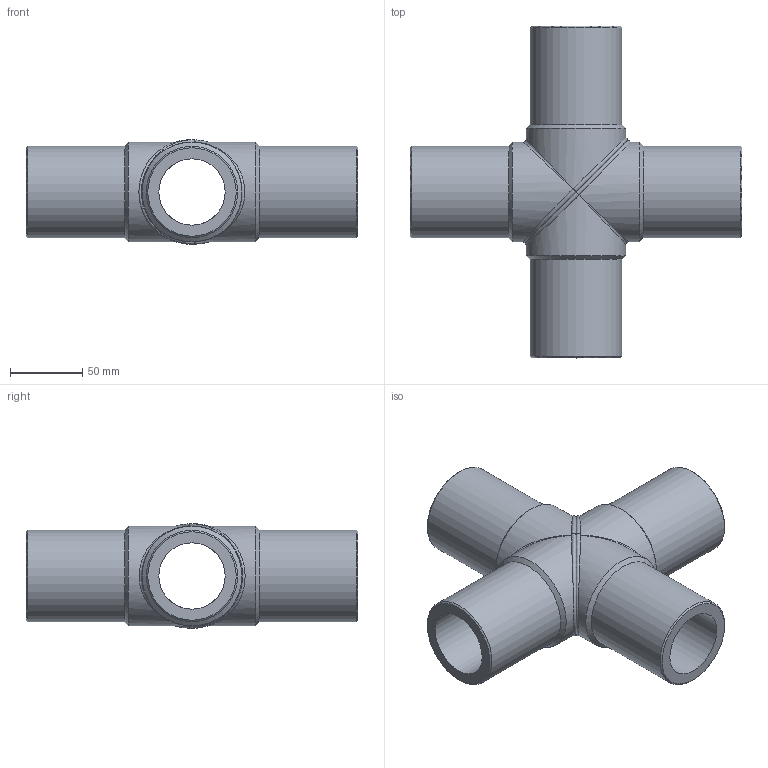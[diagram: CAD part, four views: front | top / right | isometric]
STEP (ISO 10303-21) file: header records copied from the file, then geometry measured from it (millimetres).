
FILE_DESCRIPTION(/* description */ ('Unknown'),/* implementation_level */ '2;1');
FILE_NAME(/* name */ 'CRP063H',/* time_stamp */ '2022-07-08T12:35:30+02:00',/* author */ ('Unknown'),/* organization */ ('Unknown'),/* preprocessor_version */ 'ST-DEVELOPER v18.102',/* originating_system */ 'Solid Edge',/* authorisation */ 'Unknown');
FILE_SCHEMA (('AUTOMOTIVE_DESIGN {1 0 10303 214 3 1 1}'));
Length unit declared in the file: millimetre
Products named in the file (3): CRP063H; CRP063H_mir1
Assembly tree (2 placements, depth 2):
  CRP063H
    CRP063H
    CRP063H_mir1
Bounding box: 229 x 229 x 71.99 mm (x, y, z)
Volume: 631534.6 mm3; surface area: 145450.1 mm2
Topology: 2 solids, 2 shells, 32 faces, 90 edges, 60 vertices
Faces by surface type: cylinder 12, cone 8, bspline 6, plane 6
Full cylindrical faces by diameter (mm): 45.8 x4, 63 x4, 69 x4
Entity records: 2699 total; most frequent: CARTESIAN_POINT 1971, DIRECTION 126, ORIENTED_EDGE 120, AXIS2_PLACEMENT_3D 63, EDGE_CURVE 60, EDGE_LOOP 58, FACE_BOUND 58, VERTEX_POINT 50
